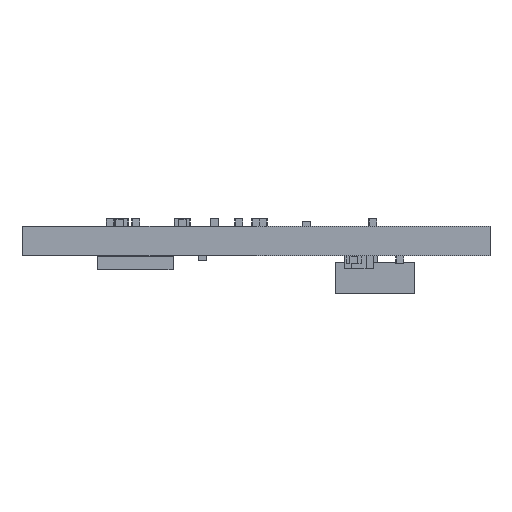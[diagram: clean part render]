
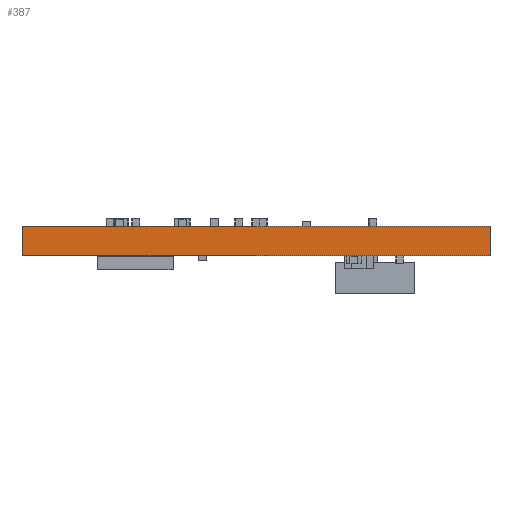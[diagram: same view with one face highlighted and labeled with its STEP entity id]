
A CAD part, front view. The second image highlights one B-rep face of the part: STEP entity #387.
In plain terms, the highlighted planar face has unit normal (0, -1, 0).
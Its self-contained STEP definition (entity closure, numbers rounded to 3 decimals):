
#124 = EDGE_CURVE('',#125,#127,#129,.T.);
#125 = VERTEX_POINT('',#126);
#126 = CARTESIAN_POINT('',(69.376,53.625,0.));
#127 = VERTEX_POINT('',#128);
#128 = CARTESIAN_POINT('',(69.376,53.625,1.123));
#129 = SURFACE_CURVE('',#130,(#134,#146),.PCURVE_S1.);
#130 = LINE('',#131,#132);
#131 = CARTESIAN_POINT('',(69.376,53.625,0.));
#132 = VECTOR('',#133,1.);
#133 = DIRECTION('',(0.,0.,1.));
#134 = PCURVE('',#135,#140);
#135 = PLANE('',#136);
#136 = AXIS2_PLACEMENT_3D('',#137,#138,#139);
#137 = CARTESIAN_POINT('',(69.376,53.625,0.));
#138 = DIRECTION('',(-1.,0.,0.));
#139 = DIRECTION('',(0.,1.,0.));
#140 = DEFINITIONAL_REPRESENTATION('',(#141),#145);
#141 = LINE('',#142,#143);
#142 = CARTESIAN_POINT('',(0.,0.));
#143 = VECTOR('',#144,1.);
#144 = DIRECTION('',(0.,-1.));
#145 = ( GEOMETRIC_REPRESENTATION_CONTEXT(2) 
PARAMETRIC_REPRESENTATION_CONTEXT() REPRESENTATION_CONTEXT('2D SPACE',''
  ) );
#146 = PCURVE('',#147,#152);
#147 = PLANE('',#148);
#148 = AXIS2_PLACEMENT_3D('',#149,#150,#151);
#149 = CARTESIAN_POINT('',(87.376,53.625,0.));
#150 = DIRECTION('',(0.,-1.,0.));
#151 = DIRECTION('',(-1.,0.,0.));
#152 = DEFINITIONAL_REPRESENTATION('',(#153),#157);
#153 = LINE('',#154,#155);
#154 = CARTESIAN_POINT('',(18.,0.));
#155 = VECTOR('',#156,1.);
#156 = DIRECTION('',(0.,-1.));
#157 = ( GEOMETRIC_REPRESENTATION_CONTEXT(2) 
PARAMETRIC_REPRESENTATION_CONTEXT() REPRESENTATION_CONTEXT('2D SPACE',''
  ) );
#175 = PLANE('',#176);
#176 = AXIS2_PLACEMENT_3D('',#177,#178,#179);
#177 = CARTESIAN_POINT('',(69.376,53.625,1.123));
#178 = DIRECTION('',(0.,0.,1.));
#179 = DIRECTION('',(1.,0.,0.));
#229 = PLANE('',#230);
#230 = AXIS2_PLACEMENT_3D('',#231,#232,#233);
#231 = CARTESIAN_POINT('',(69.376,53.625,0.));
#232 = DIRECTION('',(0.,0.,1.));
#233 = DIRECTION('',(1.,0.,0.));
#284 = PLANE('',#285);
#285 = AXIS2_PLACEMENT_3D('',#286,#287,#288);
#286 = CARTESIAN_POINT('',(87.376,74.676,0.));
#287 = DIRECTION('',(1.,0.,0.));
#288 = DIRECTION('',(0.,-1.,0.));
#322 = VERTEX_POINT('',#323);
#323 = CARTESIAN_POINT('',(87.376,53.625,1.123));
#344 = EDGE_CURVE('',#345,#322,#347,.T.);
#345 = VERTEX_POINT('',#346);
#346 = CARTESIAN_POINT('',(87.376,53.625,0.));
#347 = SURFACE_CURVE('',#348,(#352,#359),.PCURVE_S1.);
#348 = LINE('',#349,#350);
#349 = CARTESIAN_POINT('',(87.376,53.625,0.));
#350 = VECTOR('',#351,1.);
#351 = DIRECTION('',(0.,0.,1.));
#352 = PCURVE('',#284,#353);
#353 = DEFINITIONAL_REPRESENTATION('',(#354),#358);
#354 = LINE('',#355,#356);
#355 = CARTESIAN_POINT('',(21.051,0.));
#356 = VECTOR('',#357,1.);
#357 = DIRECTION('',(0.,-1.));
#358 = ( GEOMETRIC_REPRESENTATION_CONTEXT(2) 
PARAMETRIC_REPRESENTATION_CONTEXT() REPRESENTATION_CONTEXT('2D SPACE',''
  ) );
#359 = PCURVE('',#147,#360);
#360 = DEFINITIONAL_REPRESENTATION('',(#361),#365);
#361 = LINE('',#362,#363);
#362 = CARTESIAN_POINT('',(0.,0.));
#363 = VECTOR('',#364,1.);
#364 = DIRECTION('',(0.,-1.));
#365 = ( GEOMETRIC_REPRESENTATION_CONTEXT(2) 
PARAMETRIC_REPRESENTATION_CONTEXT() REPRESENTATION_CONTEXT('2D SPACE',''
  ) );
#387 = ADVANCED_FACE('',(#388),#147,.T.);
#388 = FACE_BOUND('',#389,.T.);
#389 = EDGE_LOOP('',(#390,#391,#412,#413));
#390 = ORIENTED_EDGE('',*,*,#344,.T.);
#391 = ORIENTED_EDGE('',*,*,#392,.T.);
#392 = EDGE_CURVE('',#322,#127,#393,.T.);
#393 = SURFACE_CURVE('',#394,(#398,#405),.PCURVE_S1.);
#394 = LINE('',#395,#396);
#395 = CARTESIAN_POINT('',(87.376,53.625,1.123));
#396 = VECTOR('',#397,1.);
#397 = DIRECTION('',(-1.,0.,0.));
#398 = PCURVE('',#147,#399);
#399 = DEFINITIONAL_REPRESENTATION('',(#400),#404);
#400 = LINE('',#401,#402);
#401 = CARTESIAN_POINT('',(0.,-1.123));
#402 = VECTOR('',#403,1.);
#403 = DIRECTION('',(1.,0.));
#404 = ( GEOMETRIC_REPRESENTATION_CONTEXT(2) 
PARAMETRIC_REPRESENTATION_CONTEXT() REPRESENTATION_CONTEXT('2D SPACE',''
  ) );
#405 = PCURVE('',#175,#406);
#406 = DEFINITIONAL_REPRESENTATION('',(#407),#411);
#407 = LINE('',#408,#409);
#408 = CARTESIAN_POINT('',(18.,0.));
#409 = VECTOR('',#410,1.);
#410 = DIRECTION('',(-1.,0.));
#411 = ( GEOMETRIC_REPRESENTATION_CONTEXT(2) 
PARAMETRIC_REPRESENTATION_CONTEXT() REPRESENTATION_CONTEXT('2D SPACE',''
  ) );
#412 = ORIENTED_EDGE('',*,*,#124,.F.);
#413 = ORIENTED_EDGE('',*,*,#414,.F.);
#414 = EDGE_CURVE('',#345,#125,#415,.T.);
#415 = SURFACE_CURVE('',#416,(#420,#427),.PCURVE_S1.);
#416 = LINE('',#417,#418);
#417 = CARTESIAN_POINT('',(87.376,53.625,0.));
#418 = VECTOR('',#419,1.);
#419 = DIRECTION('',(-1.,0.,0.));
#420 = PCURVE('',#147,#421);
#421 = DEFINITIONAL_REPRESENTATION('',(#422),#426);
#422 = LINE('',#423,#424);
#423 = CARTESIAN_POINT('',(0.,0.));
#424 = VECTOR('',#425,1.);
#425 = DIRECTION('',(1.,0.));
#426 = ( GEOMETRIC_REPRESENTATION_CONTEXT(2) 
PARAMETRIC_REPRESENTATION_CONTEXT() REPRESENTATION_CONTEXT('2D SPACE',''
  ) );
#427 = PCURVE('',#229,#428);
#428 = DEFINITIONAL_REPRESENTATION('',(#429),#433);
#429 = LINE('',#430,#431);
#430 = CARTESIAN_POINT('',(18.,0.));
#431 = VECTOR('',#432,1.);
#432 = DIRECTION('',(-1.,0.));
#433 = ( GEOMETRIC_REPRESENTATION_CONTEXT(2) 
PARAMETRIC_REPRESENTATION_CONTEXT() REPRESENTATION_CONTEXT('2D SPACE',''
  ) );
